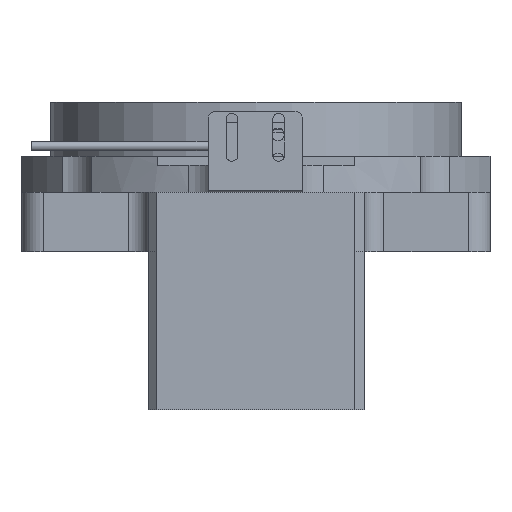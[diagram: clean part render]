
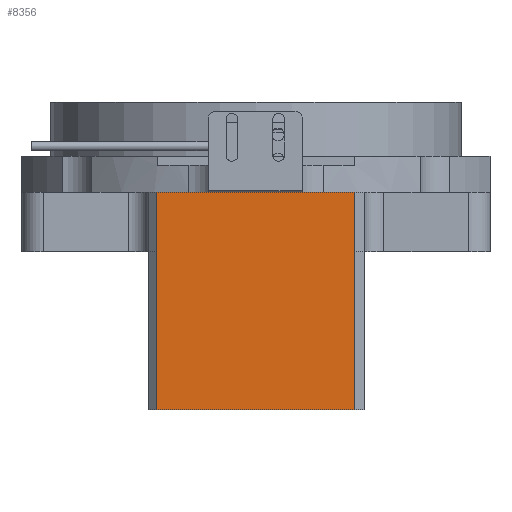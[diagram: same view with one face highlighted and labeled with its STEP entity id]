
A CAD part, front view. The second image highlights one B-rep face of the part: STEP entity #8356.
In plain terms, the highlighted planar face has unit normal (0, -1, 0).
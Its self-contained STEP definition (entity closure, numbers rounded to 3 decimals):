
#34 = VECTOR ( 'NONE', #6232, 1000. ) ;
#156 = ORIENTED_EDGE ( 'NONE', *, *, #7469, .T. ) ;
#520 = VERTEX_POINT ( 'NONE', #7217 ) ;
#560 = DIRECTION ( 'NONE',  ( 0., 0., -1. ) ) ;
#833 = VECTOR ( 'NONE', #4973, 1000. ) ;
#1108 = CARTESIAN_POINT ( 'NONE',  ( 18.339, -98.343, 18.75 ) ) ;
#1436 = CARTESIAN_POINT ( 'NONE',  ( 18.339, -98.343, 18.75 ) ) ;
#1566 = ORIENTED_EDGE ( 'NONE', *, *, #3612, .F. ) ;
#1582 = CARTESIAN_POINT ( 'NONE',  ( 18.339, -98.343, 2.25 ) ) ;
#1605 = CARTESIAN_POINT ( 'NONE',  ( -36.661, -98.343, 18.75 ) ) ;
#1645 = EDGE_CURVE ( 'NONE', #7665, #3336, #6360, .T. ) ;
#1667 = DIRECTION ( 'NONE',  ( 1., 0., 0. ) ) ;
#1800 = CARTESIAN_POINT ( 'NONE',  ( -36.661, -98.343, 2.25 ) ) ;
#2174 = PLANE ( 'NONE',  #6083 ) ;
#2205 = EDGE_CURVE ( 'NONE', #3336, #3617, #5114, .T. ) ;
#2420 = ORIENTED_EDGE ( 'NONE', *, *, #7374, .T. ) ;
#2860 = CARTESIAN_POINT ( 'NONE',  ( -9.161, -98.343, 43.75 ) ) ;
#3336 = VERTEX_POINT ( 'NONE', #1800 ) ;
#3427 = CARTESIAN_POINT ( 'NONE',  ( 20.839, -98.343, -41.75 ) ) ;
#3546 = DIRECTION ( 'NONE',  ( 0., 1., 0. ) ) ;
#3587 = DIRECTION ( 'NONE',  ( 1., 0., 0. ) ) ;
#3612 = EDGE_CURVE ( 'NONE', #7665, #7608, #6937, .T. ) ;
#3617 = VERTEX_POINT ( 'NONE', #3724 ) ;
#3724 = CARTESIAN_POINT ( 'NONE',  ( -36.661, -98.343, -41.75 ) ) ;
#4149 = ORIENTED_EDGE ( 'NONE', *, *, #2205, .T. ) ;
#4327 = EDGE_CURVE ( 'NONE', #8025, #3617, #7460, .T. ) ;
#4973 = DIRECTION ( 'NONE',  ( 0., 0., 1. ) ) ;
#5017 = CARTESIAN_POINT ( 'NONE',  ( -9.161, -98.343, 18.75 ) ) ;
#5114 = LINE ( 'NONE', #7727, #6662 ) ;
#5300 = CARTESIAN_POINT ( 'NONE',  ( 18.339, -98.343, -41.75 ) ) ;
#5488 = DIRECTION ( 'NONE',  ( -1., 0., 0. ) ) ;
#5595 = CARTESIAN_POINT ( 'NONE',  ( -36.661, -98.343, 43.75 ) ) ;
#5777 = VECTOR ( 'NONE', #5488, 1000. ) ;
#6083 = AXIS2_PLACEMENT_3D ( 'NONE', #2860, #3546, #3587 ) ;
#6189 = EDGE_LOOP ( 'NONE', ( #8455, #156, #2420, #1566, #6736, #4149 ) ) ;
#6232 = DIRECTION ( 'NONE',  ( 0., 0., -1. ) ) ;
#6254 = LINE ( 'NONE', #1108, #7954 ) ;
#6360 = LINE ( 'NONE', #5595, #34 ) ;
#6567 = VECTOR ( 'NONE', #1667, 1000. ) ;
#6662 = VECTOR ( 'NONE', #560, 1000. ) ;
#6736 = ORIENTED_EDGE ( 'NONE', *, *, #1645, .T. ) ;
#6934 = LINE ( 'NONE', #1582, #833 ) ;
#6937 = LINE ( 'NONE', #5017, #6567 ) ;
#7217 = CARTESIAN_POINT ( 'NONE',  ( 18.339, -98.343, 2.25 ) ) ;
#7374 = EDGE_CURVE ( 'NONE', #520, #7608, #6254, .T. ) ;
#7460 = LINE ( 'NONE', #3427, #5777 ) ;
#7469 = EDGE_CURVE ( 'NONE', #8025, #520, #6934, .T. ) ;
#7608 = VERTEX_POINT ( 'NONE', #1436 ) ;
#7665 = VERTEX_POINT ( 'NONE', #1605 ) ;
#7727 = CARTESIAN_POINT ( 'NONE',  ( -36.661, -98.343, 43.75 ) ) ;
#7954 = VECTOR ( 'NONE', #8143, 1000. ) ;
#8025 = VERTEX_POINT ( 'NONE', #5300 ) ;
#8051 = FACE_OUTER_BOUND ( 'NONE', #6189, .T. ) ;
#8143 = DIRECTION ( 'NONE',  ( 0., 0., 1. ) ) ;
#8356 = ADVANCED_FACE ( 'NONE', ( #8051 ), #2174, .F. ) ;
#8455 = ORIENTED_EDGE ( 'NONE', *, *, #4327, .F. ) ;
